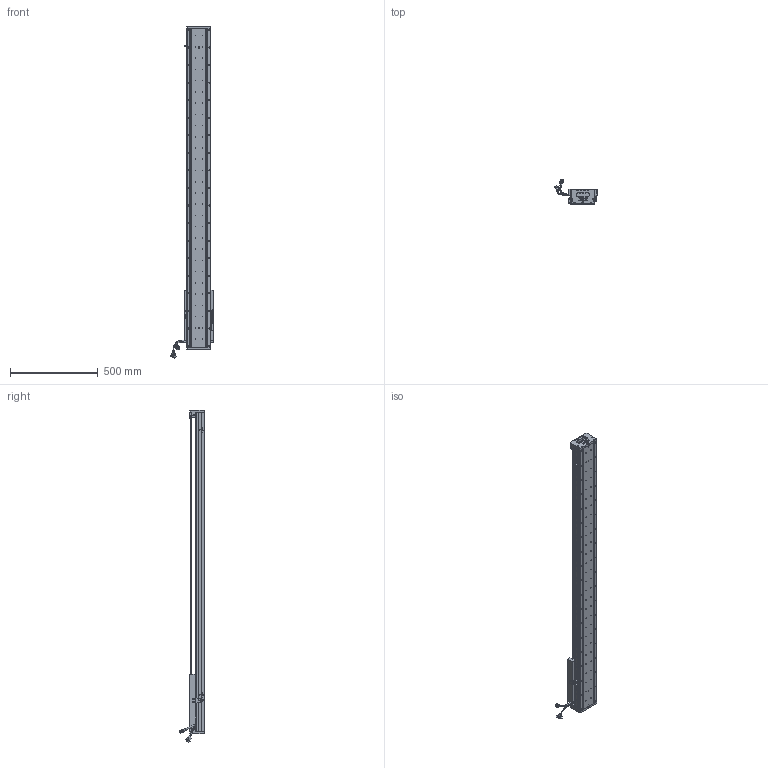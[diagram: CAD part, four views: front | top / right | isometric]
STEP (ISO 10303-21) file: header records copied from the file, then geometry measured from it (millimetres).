
FILE_DESCRIPTION (( 'STEP AP203' ), '1' );
FILE_NAME ('Z4-RY140D-1-L500-B-K.SLDASM_1450.step', '2021-05-17T08:16:36', ( '盈信电脑' ), ( '东莞市道滘镇水果街19号' ), 'SwSTEP 2.0', 'SolidWorks 2016', '' );
FILE_SCHEMA (( 'CONFIG_CONTROL_DESIGN' ));
Length unit declared in the file: millimetre
Products named in the file (36): SCALE; SCREW-M1.6-2; 080黍杅芛假蚾釱21遴; SHIELDPLATE; SCREW-M1.6-1; Z4-RY140-L500詩湍100mm遵_1450; Z4-RY140-L500直线电机模组底座_1450; SCREW-M1.6-3; 榋妏寠巭燃_暯_M2_2; SCALE-Part-2; HOLDER0; HARNESS; PBU_SHEET; Z-RY140感应器672光电感应片; SCREW-M1.7-1; HARNESS-Part-2; LABEL-Part-1; SCREW-M1.6; 140-Z-臏賑輸盄裔(21遴); 140雄赽晤鎢ん堤盄; 詩湍狟揤裔; Z4-RY140D-1-L500-B-K.SLDASM_1450; 詩湍奻揤裔; 覜茼ん672; 140蚥薯蝶輸; HARNESS-Part-1; LABEL; SCALE-Part-1; Z4-RY140圉猾敕臏賑輸(21遴); Z-140詩湍傷裔啣; SEAL; SCREW-M1.7; SEAL-Part-1; PSLH080_PSLF2; COVER; COVER-Part-1
Assembly tree (41 placements, depth 4):
  Z4-RY140D-1-L500-B-K.SLDASM_1450
    Z4-RY140-L500直线电机模组底座_1450
    Z-RY140感应器672光电感应片
    Z4-RY140圉猾敕臏賑輸(21遴)
    覜茼ん672  x3
    Z4-RY140-L500詩湍100mm遵_1450
    PSLH080_PSLF2
      SCALE
        SCALE-Part-1
        SCALE-Part-2
      HARNESS
        HARNESS-Part-1
        HARNESS-Part-2
      LABEL
        LABEL-Part-1
      COVER
        COVER-Part-1
      SEAL
        SEAL-Part-1
      榋妏寠巭燃_暯_M2_2
      SHIELDPLATE
      SCREW-M1.7
      SCREW-M1.7-1
      PBU_SHEET
      SCREW-M1.6
      SCREW-M1.6-1
      SCREW-M1.6-2
      SCREW-M1.6-3
      HOLDER0
    080黍杅芛假蚾釱21遴
    140-Z-臏賑輸盄裔(21遴)
    Z-140詩湍傷裔啣  x2
    詩湍狟揤裔  x2
    詩湍奻揤裔  x2
    140蚥薯蝶輸  x2
    140雄赽晤鎢ん堤盄
Bounding box: 239.83 x 143.88 x 1890.87 mm (x, y, z)
Volume: 6546023.3 mm3; surface area: 1680884.3 mm2
Topology: 36 solids, 36 shells, 3616 faces, 9726 edges, 6161 vertices
Faces by surface type: cylinder 1868, plane 1272, cone 354, torus 69, bspline 53
Entity records: 111634 total; most frequent: CARTESIAN_POINT 30427, ORIENTED_EDGE 16468, DIRECTION 15598, EDGE_CURVE 8234, AXIS2_PLACEMENT_3D 5780, VERTEX_POINT 5329, LINE 4038, VECTOR 4038
